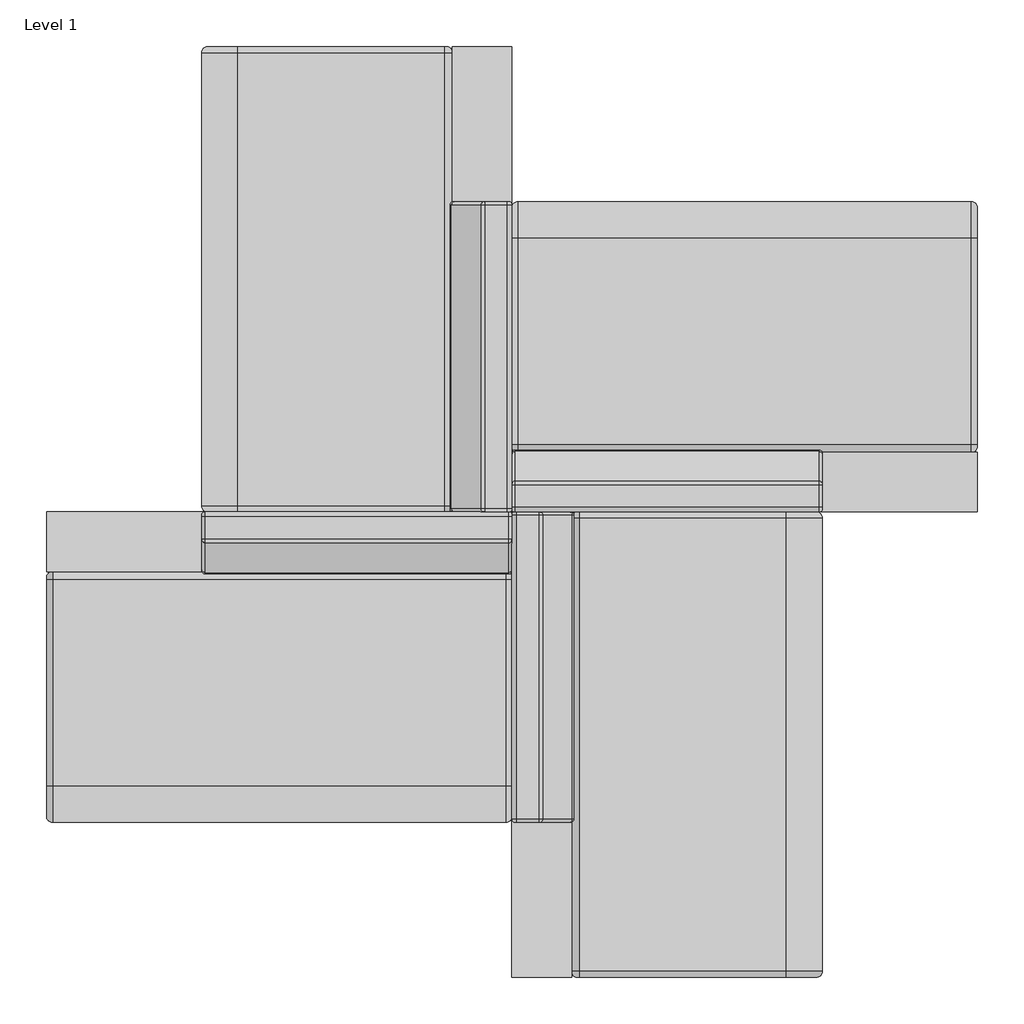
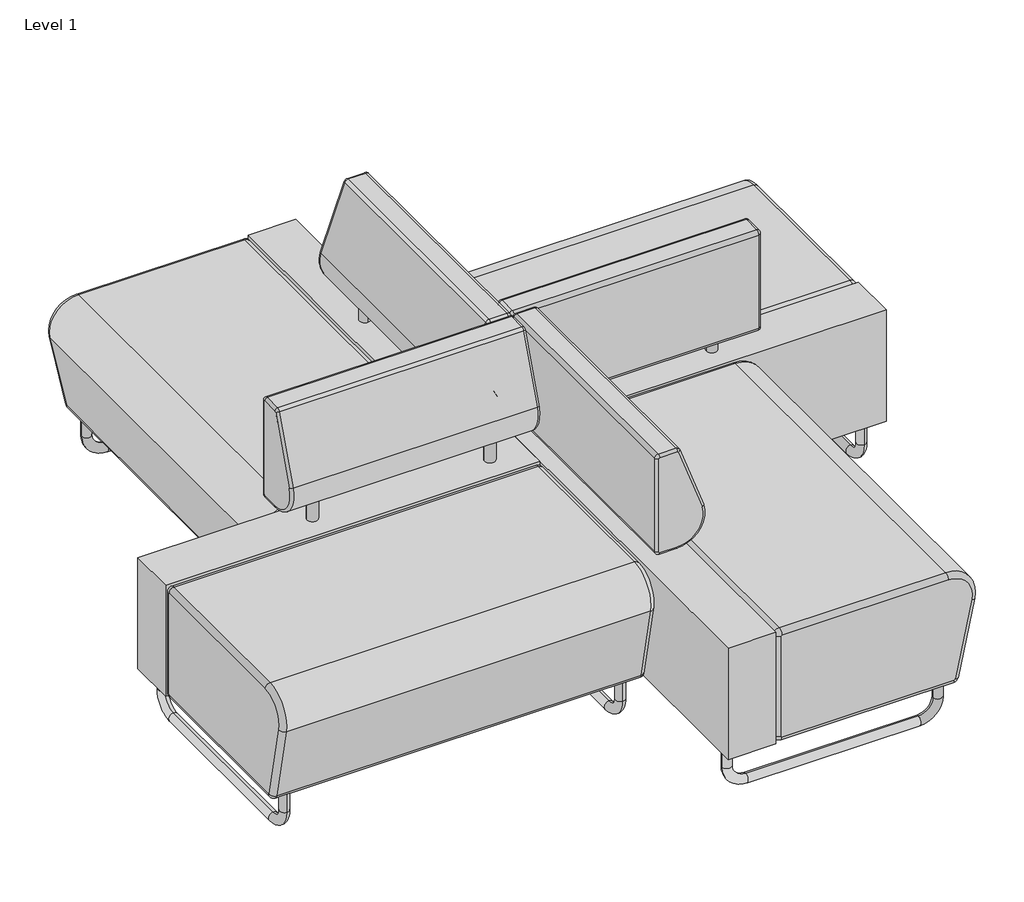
# One storey: 4 furniture elements.
"""IFC4 building model written with IfcOpenShell, lengths in millimetres."""

from ifc_helpers import new_model, si_unit, origin, place, context, project, spatial, transform, mapped, element, save
from components import lounge_seat_ki_hub_ef02d1cb

model = new_model("IFC4")

# Units and contexts
model_context = context("Model", 3, world=origin())
ifc_project = project(units=[si_unit("LENGTHUNIT", "METRE", prefix="MILLI")], contexts=[model_context])

# Site, building, storey
site = spatial("IfcSite", under=ifc_project)
building = spatial("IfcBuilding", under=site)
storey = spatial("IfcBuildingStorey", under=building, Name="Level 1", Elevation=0.0)

# Furniture
placement = place(None, origin())
lounge_seat_ki_hub_shape = lounge_seat_ki_hub_ef02d1cb(model_context)
element("IfcFurniture", 1, ObjectType="Lounge-Seat-KI-Hub : 39\"W, Laminate, Contrast, Back R", at=placement, inside=storey, context=model_context, shape_type="MappedRepresentation", body=[
    mapped(lounge_seat_ki_hub_shape, transform((2190.9850684, 2438.9403944, 0.0), x_axis=(1.0, 0.0, 0.0), y_axis=(0.0, 1.0, 0.0), z_axis=(0.0, 0.0, 1.0))),
])
element("IfcFurniture", 2, ObjectType="Lounge-Seat-KI-Hub : 39\"W, Laminate, Contrast, Back R", at=placement, inside=storey, context=model_context, shape_type="MappedRepresentation", body=[
    mapped(lounge_seat_ki_hub_shape, transform((3016.4850684, 2273.8403944, 0.0), x_axis=(0.0, 1.0, 0.0), y_axis=(-1.0, 0.0, 0.0), z_axis=(0.0, 0.0, 1.0))),
])
element("IfcFurniture", 3, ObjectType="Lounge-Seat-KI-Hub : 39\"W, Laminate, Contrast, Back R", at=placement, inside=storey, context=model_context, shape_type="MappedRepresentation", body=[
    mapped(lounge_seat_ki_hub_shape, transform((3181.5850684, 3099.3403944, 0.0), x_axis=(-1.0, 0.0, 0.0), y_axis=(0.0, -1.0, 0.0), z_axis=(0.0, 0.0, 1.0))),
])
element("IfcFurniture", 4, ObjectType="Lounge-Seat-KI-Hub : 39\"W, Laminate, Contrast, Back R", at=placement, inside=storey, context=model_context, shape_type="MappedRepresentation", body=[
    mapped(lounge_seat_ki_hub_shape, transform((2356.0850684, 3264.4403944, 0.0), x_axis=(0.0, -1.0, 0.0), y_axis=(1.0, 0.0, 0.0), z_axis=(0.0, 0.0, 1.0))),
])

save(model, "model.ifc")
